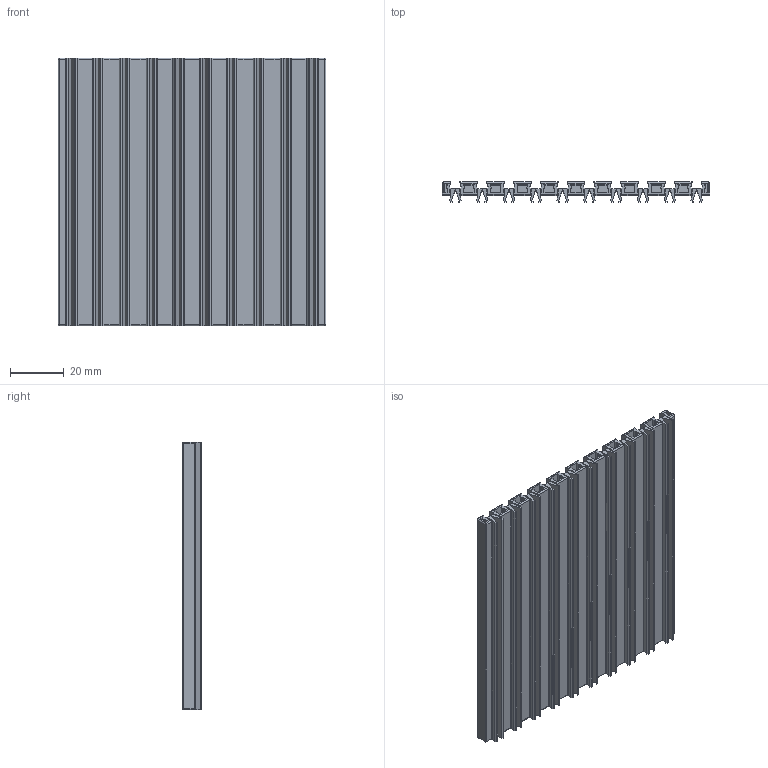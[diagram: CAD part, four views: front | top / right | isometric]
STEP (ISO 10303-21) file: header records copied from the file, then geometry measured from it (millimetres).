
FILE_DESCRIPTION(/* description */ (''),/* implementation_level */ '2;1');
FILE_NAME(/* name */ 'C:/Users/priba/Downloads/Brick10x10x0.5mf.step',/* time_stamp */ '2022-04-03T11:06:02+02:00',/* author */ (''),/* organization */ (''),/* preprocessor_version */ 'ST-DEVELOPER v18.1',/* originating_system */ 'Autodesk Translation Framework v10.13.0.1454',/* authorisation */ '');
FILE_SCHEMA (('AUTOMOTIVE_DESIGN { 1 0 10303 214 3 1 1 }'));
Length unit declared in the file: millimetre
Products named in the file (1): Brick10x10x0.5mf
Bounding box: 100 x 7.31 x 100 mm (x, y, z)
Volume: 29773.5 mm3; surface area: 62522.8 mm2
Topology: 1 solids, 1 shells, 401 faces, 1140 edges, 752 vertices
Faces by surface type: plane 341, cylinder 52, sphere 8
Entity records: 12848 total; most frequent: CARTESIAN_POINT 2294, ORIENTED_EDGE 2280, DIRECTION 2048, EDGE_CURVE 1140, LINE 1036, VECTOR 1036, VERTEX_POINT 752, AXIS2_PLACEMENT_3D 506
